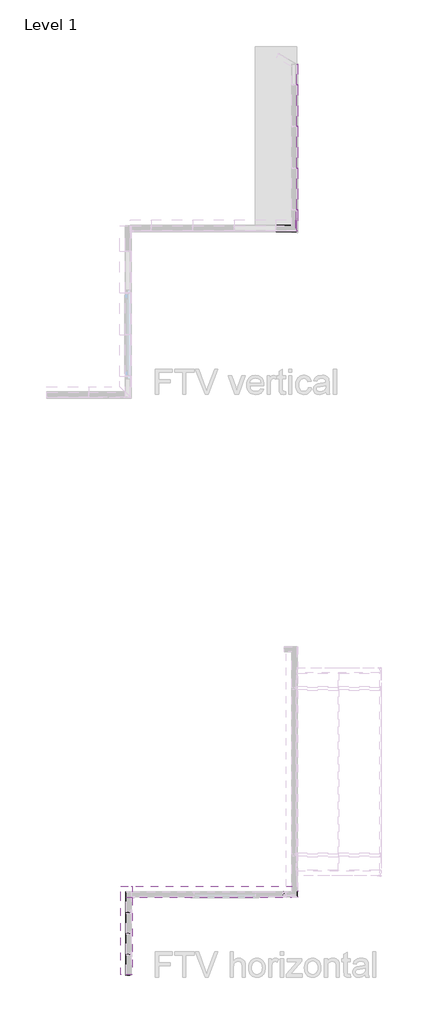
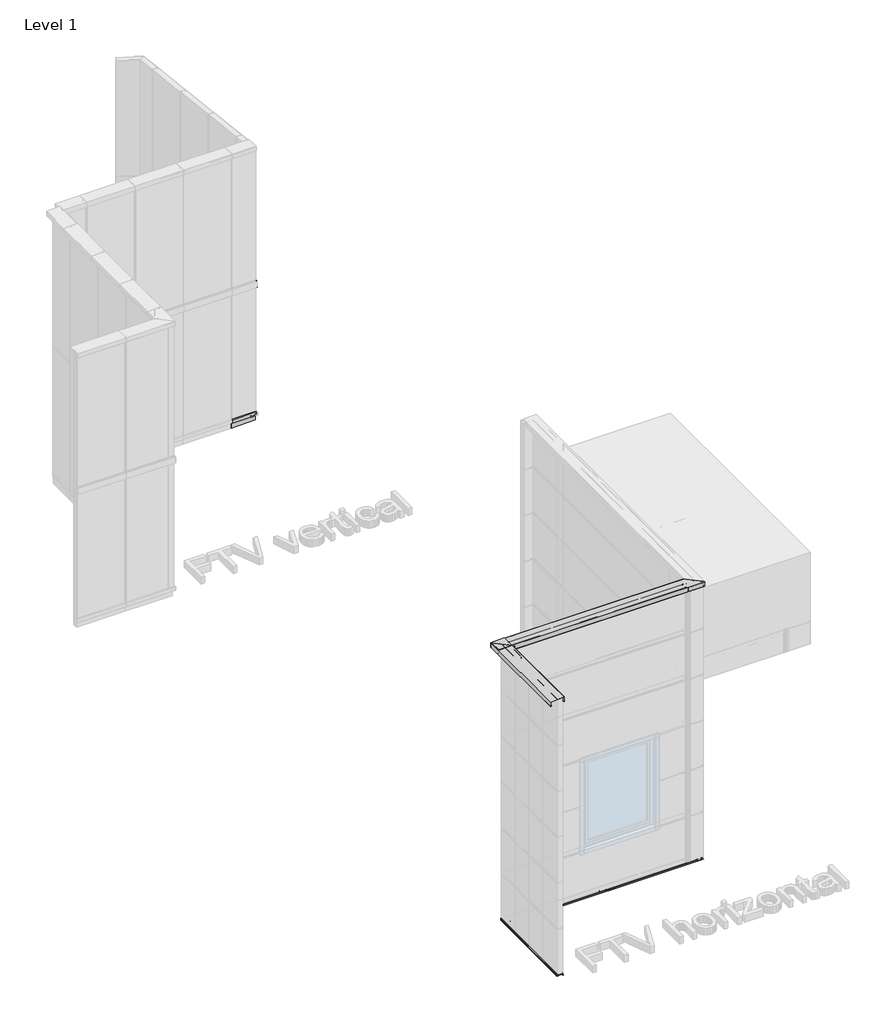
# One storey, part 14 of 16: 6 members, 4 beams, 2 plates.
"""IFC4 building model written with IfcOpenShell, lengths in millimetres."""

from ifc_helpers import new_model, si_unit, point, frame, frame_2d, origin, place, context, project, spatial, polyline, circle_curve, ellipse_curve, trimmed, segment, composite_curve, outline, extrude, faceted_brep, transform, mapped, element, save
from ifc_brep_helpers import plane_surface, cylinder_surface, revolved_surface, advanced_brep
from components import base_detail_1a4634c7, rectangular_mullion_43938598, rectangular_mullion_33361686, rectangular_mullion_88eb2caa, rectangular_mullion_4b7977a3, tr_empty_empty_82193d3f, tr_empty_empty_37449267

model = new_model("IFC4")

# Units and contexts
model_context = context("Model", 3, world=origin())
ifc_project = project(units=[si_unit("LENGTHUNIT", "METRE", prefix="MILLI")], contexts=[model_context])

# Site, building, storey
site = spatial("IfcSite", under=ifc_project)
building = spatial("IfcBuilding", under=site)
storey = spatial("IfcBuildingStorey", under=building, Name="Level 1", Elevation=0.0)

# Beams
placement = place(None, origin())
element("IfcBeam", 1, ObjectType="TE-H-02_01_Base detail i_BEAM : Base detail", at=placement, inside=storey, context=model_context, shape_type="SolidModel", body=[
    faceted_brep([(-3969.1251246, -12018.1930879, 176.1857205), (-3969.1251246, -12018.1930879, 161.1857205), (-3969.1251246, -12018.9930879, 161.1857205), (-3969.1251246, -12018.9930879, 175.3857205), (-3969.1251246, -12022.3930879, 175.3857205), (-3969.1251246, -12022.3930879, 150.7238403), (-3969.1251246, -12035.3834689, 143.2238403), (-3969.1251246, -12035.3834689, 120.6170914), (-3969.1251246, -12026.1425526, 129.8580077), (-3969.1251246, -12025.5768672, 129.2923222), (-3969.1251246, -12036.1834689, 118.6857205), (-3969.1251246, -12036.1834689, 143.6857205), (-3969.1251246, -12023.1930879, 151.1857205), (-3969.1251246, -12023.1930879, 176.1857205), (11.6748754, -12018.1930879, 176.1857205), (11.6748754, -12023.1930879, 176.1857205), (11.6748754, -12023.1930879, 151.1857205), (11.6748754, -12036.1834689, 143.6857205), (11.6748754, -12036.1834689, 118.6857205), (11.6748754, -12025.5768672, 129.2923222), (11.6748754, -12026.1425526, 129.8580077), (11.6748754, -12035.3834689, 120.6170914), (11.6748754, -12035.3834689, 143.2238403), (11.6748754, -12022.3930879, 150.7238403), (11.6748754, -12022.3930879, 175.3857205), (11.6748754, -12018.9930879, 175.3857205), (11.6748754, -12018.9930879, 161.1857205), (11.6748754, -12018.1930879, 161.1857205)], [[[0, 1, 2, 3, 4, 5, 6, 7, 8, 9, 10, 11, 12, 13]], [[14, 15, 16, 17, 18, 19, 20, 21, 22, 23, 24, 25, 26, 27]], [[1, 0, 14, 27]], [[2, 1, 27, 26]], [[3, 2, 26, 25]], [[4, 3, 25, 24]], [[5, 4, 24, 23]], [[6, 5, 23, 22]], [[7, 6, 22, 21]], [[8, 7, 21, 20]], [[9, 8, 20, 19]], [[10, 9, 19, 18]], [[11, 10, 18, 17]], [[12, 11, 17, 16]], [[13, 12, 16, 15]], [[0, 13, 15, 14]]]),
    faceted_brep([(-3969.1251246, -12018.1930879, 176.1857205), (-3969.1251246, -12018.1930879, 161.1857205), (-3969.1251246, -12018.9930879, 161.1857205), (-3969.1251246, -12018.9930879, 175.3857205), (-3969.1251246, -12022.3930879, 175.3857205), (-3969.1251246, -12022.3930879, 150.7238403), (-3969.1251246, -12035.3834689, 143.2238403), (-3969.1251246, -12035.3834689, 120.6170914), (-3969.1251246, -12026.1425526, 129.8580077), (-3969.1251246, -12025.5768672, 129.2923222), (-3969.1251246, -12036.1834689, 118.6857205), (-3969.1251246, -12036.1834689, 143.6857205), (-3969.1251246, -12023.1930879, 151.1857205), (-3969.1251246, -12023.1930879, 176.1857205), (-6.3155057, -12018.1930879, 176.1857205), (-6.3155057, -12018.1930879, 161.1857205), (-5.5155057, -12018.9930879, 161.1857205), (-5.5155057, -12018.9930879, 175.3857205), (-2.1155057, -12022.3930879, 175.3857205), (-2.1155057, -12022.3930879, 150.7238403), (10.8748754, -12035.3834689, 143.2238403), (10.8748754, -12035.3834689, 120.6170914), (1.6339591, -12026.1425526, 129.8580077), (1.0682737, -12025.5768672, 129.2923222), (11.6748754, -12036.1834689, 118.6857205), (11.6748754, -12036.1834689, 143.6857205), (-1.3155057, -12023.1930879, 151.1857205), (-1.3155057, -12023.1930879, 176.1857205)], [[[0, 1, 2, 3, 4, 5, 6, 7, 8, 9, 10, 11, 12, 13]], [[1, 0, 14, 15]], [[2, 1, 15, 16]], [[3, 2, 16, 17]], [[4, 3, 17, 18]], [[5, 4, 18, 19]], [[6, 5, 19, 20]], [[7, 6, 20, 21]], [[8, 7, 21, 22]], [[9, 8, 22, 23]], [[10, 9, 23, 24]], [[11, 10, 24, 25]], [[12, 11, 25, 26]], [[13, 12, 26, 27]], [[0, 13, 27, 14]], [[15, 14, 27, 26, 25, 24, 23, 22, 21, 20, 19, 18, 17, 16]]]),
    advanced_brep(
    [(11.6748754, -11908.8930879, 148.5), (11.6748754, -11905.8930879, 151.5), (11.6748754, -11905.8930879, 198.5), (11.6748754, -11907.3930879, 198.5), (11.6748754, -11907.3930879, 151.5), (11.6748754, -11908.8930879, 150.0), (11.6748754, -12005.8930879, 150.0), (11.6748754, -12005.8930879, 148.5), (-3969.1251246, -11908.8930879, 148.5), (-3969.1251246, -12005.8930879, 148.5), (-3969.1251246, -12005.8930879, 150.0), (-3969.1251246, -11908.8930879, 150.0), (-3969.1251246, -11907.3930879, 151.5), (-3969.1251246, -11907.3930879, 198.5), (-3969.1251246, -11905.8930879, 198.5), (-3969.1251246, -11905.8930879, 151.5)],
    [
        (0, 1, circle_curve(frame((11.6748754, -11908.8930879, 151.5), z_axis=(1.0, 0.0, 0.0), x_axis=(0.0, 1.0, 0.0)), 3.0)),
        (1, 2),
        (2, 3),
        (3, 4),
        (4, 5, circle_curve(frame((11.6748754, -11908.8930879, 151.5), z_axis=(-1.0, 0.0, 0.0), x_axis=(0.0, 1.0, 0.0)), 1.5)),
        (5, 6),
        (6, 7),
        (7, 0),
        (8, 9),
        (9, 10),
        (10, 11),
        (11, 12, circle_curve(frame((-3969.1251246, -11908.8930879, 151.5), z_axis=(1.0, 0.0, 0.0), x_axis=(0.0, 1.0, 0.0)), 1.5)),
        (12, 13),
        (13, 14),
        (14, 15),
        (15, 8, circle_curve(frame((-3969.1251246, -11908.8930879, 151.5), z_axis=(-1.0, 0.0, 0.0), x_axis=(0.0, 1.0, 0.0)), 3.0)),
        (0, 8),
        (15, 1),
        (14, 2),
        (13, 3),
        (12, 4),
        (11, 5),
        (10, 6),
        (9, 7),
    ],
    [
        plane_surface(frame((11.6748754, -11905.8930879, 151.5), z_axis=(1.0, 0.0, 0.0), x_axis=(0.0, 0.0, 1.0))),
        plane_surface(frame((-3969.1251246, -11905.8930879, 151.5), z_axis=(-1.0, 0.0, 0.0), x_axis=(0.0, 0.0, -1.0))),
        cylinder_surface(frame((-3969.1251246, -11908.8930879, 151.5), z_axis=(1.0, 0.0, 0.0), x_axis=(0.0, 1.0, 0.0)), 3.0),
        plane_surface(frame((11.6748754, -11905.8930879, 151.5), z_axis=(0.0, 1.0, 0.0), x_axis=(-1.0, 0.0, 0.0))),
        plane_surface(frame((11.6748754, -11905.8930879, 198.5), z_axis=(0.0, 0.0, 1.0), x_axis=(-1.0, 0.0, 0.0))),
        plane_surface(frame((11.6748754, -11907.3930879, 198.5), z_axis=(0.0, -1.0, 0.0), x_axis=(-1.0, 0.0, 0.0))),
        revolved_surface(polyline([(-3969.1251246, -11907.3930879, 151.5), (11.674875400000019, -11907.3930879, 151.5)]), (-3969.1251246, -11908.8930879, 151.5), (-1.0, 0.0, 0.0)),
        plane_surface(frame((11.6748754, -11908.8930879, 150.0), z_axis=(0.0, 0.0, 1.0), x_axis=(-1.0, 0.0, 0.0))),
        plane_surface(frame((11.6748754, -12005.8930879, 150.0), z_axis=(0.0, -1.0, 0.0), x_axis=(-1.0, 0.0, 0.0))),
        plane_surface(frame((11.6748754, -12005.8930879, 148.5), z_axis=(0.0, 0.0, -1.0), x_axis=(-1.0, 0.0, 0.0))),
    ],
    [
        (0, [[1, 2, 3, 4, 5, 6, 7, 8]]),
        (1, [[9, 10, 11, 12, 13, 14, 15, 16]]),
        (2, [[-1, 17, -16, 18]]),
        (3, [[-2, -18, -15, 19]]),
        (4, [[-3, -19, -14, 20]]),
        (5, [[-4, -20, -13, 21]]),
        (6, [[-5, -21, -12, 22]]),
        (7, [[-6, -22, -11, 23]]),
        (8, [[-7, -23, -10, 24]]),
        (9, [[-8, -24, -9, -17]]),
    ],
),
    advanced_brep(
    [(-3969.1251246, -11908.8930879, 148.5), (-3969.1251246, -12005.8930879, 148.5), (-3969.1251246, -12005.8930879, 150.0), (-3969.1251246, -11908.8930879, 150.0), (-3969.1251246, -11907.3930879, 151.5), (-3969.1251246, -11907.3930879, 198.5), (-3969.1251246, -11905.8930879, 198.5), (-3969.1251246, -11905.8930879, 151.5), (-18.6155057, -12005.8930879, 148.5), (-115.6155057, -11908.8930879, 148.5), (-18.6155057, -12005.8930879, 150.0), (-115.6155057, -11908.8930879, 150.0), (-117.1155057, -11907.3930879, 151.5), (-117.1155057, -11907.3930879, 198.5), (-118.6155057, -11905.8930879, 198.5), (-118.6155057, -11905.8930879, 151.5)],
    [
        (0, 1),
        (1, 2),
        (2, 3),
        (3, 4, circle_curve(frame((-3969.1251246, -11908.8930879, 151.5), z_axis=(1.0, 0.0, 0.0), x_axis=(0.0, 1.0, 0.0)), 1.5)),
        (4, 5),
        (5, 6),
        (6, 7),
        (7, 0, circle_curve(frame((-3969.1251246, -11908.8930879, 151.5), z_axis=(-1.0, 0.0, 0.0), x_axis=(0.0, 1.0, 0.0)), 3.0)),
        (8, 1),
        (0, 9),
        (9, 8),
        (10, 2),
        (8, 10),
        (11, 3),
        (10, 11),
        (12, 4),
        (11, 12, ellipse_curve(frame((-115.6155057, -11908.8930879, 151.5), z_axis=(0.7071067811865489, 0.7071067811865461, 0.0), x_axis=(-0.7071067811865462, 0.7071067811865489, 0.0)), 2.1213203, 1.5)),
        (13, 5),
        (12, 13),
        (14, 6),
        (13, 14),
        (15, 7),
        (14, 15),
        (15, 9, ellipse_curve(frame((-115.6155057, -11908.8930879, 151.5), z_axis=(-0.7071067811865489, -0.7071067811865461, 0.0), x_axis=(0.7071067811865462, -0.7071067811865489, 0.0)), 4.2426407, 3.0)),
    ],
    [
        plane_surface(frame((-3969.1251246, -11905.8930879, 151.5), z_axis=(-1.0, 0.0, 0.0), x_axis=(0.0, 0.0, -1.0))),
        plane_surface(frame((11.6748754, -12005.8930879, 148.5), z_axis=(0.0, 0.0, -1.0), x_axis=(-1.0, 0.0, 0.0))),
        plane_surface(frame((11.6748754, -12005.8930879, 150.0), z_axis=(0.0, -1.0, 0.0), x_axis=(-1.0, 0.0, 0.0))),
        plane_surface(frame((11.6748754, -11908.8930879, 150.0), z_axis=(0.0, 0.0, 1.0), x_axis=(-1.0, 0.0, 0.0))),
        revolved_surface(polyline([(-3969.1251246, -11907.3930879, 151.5), (-114.11550573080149, -11907.3930879, 151.5)]), (-3969.1251246, -11908.8930879, 151.5), (-1.0, 0.0, 0.0)),
        plane_surface(frame((11.6748754, -11907.3930879, 198.5), z_axis=(0.0, -1.0, 0.0), x_axis=(-1.0, 0.0, 0.0))),
        plane_surface(frame((11.6748754, -11905.8930879, 198.5), z_axis=(0.0, 0.0, 1.0), x_axis=(-1.0, 0.0, 0.0))),
        plane_surface(frame((11.6748754, -11905.8930879, 151.5), z_axis=(0.0, 1.0, 0.0), x_axis=(-1.0, 0.0, 0.0))),
        cylinder_surface(frame((-3969.1251246, -11908.8930879, 151.5), z_axis=(1.0, 0.0, 0.0), x_axis=(0.0, 1.0, 0.0)), 3.0),
        plane_surface(frame((-247.5155057, -11776.9930879, 100000.0), z_axis=(0.7071067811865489, 0.7071067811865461, 0.0), x_axis=(-0.7071067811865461, 0.7071067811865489, 0.0))),
    ],
    [
        (0, [[1, 2, 3, 4, 5, 6, 7, 8]]),
        (1, [[9, -1, 10, 11]]),
        (2, [[12, -2, -9, 13]]),
        (3, [[14, -3, -12, 15]]),
        (4, [[16, -4, -14, 17]]),
        (5, [[18, -5, -16, 19]]),
        (6, [[20, -6, -18, 21]]),
        (7, [[22, -7, -20, 23]]),
        (8, [[-10, -8, -22, 24]]),
        (9, [[-24, -23, -21, -19, -17, -15, -13, -11]]),
    ],
),
    advanced_brep(
    [(-138.3251246, -12022.3930879, 175.0), (-138.3251246, -12020.3930879, 175.0), (-138.3251246, -12020.3930879, 154.0), (-138.3251246, -12018.3930879, 152.0), (-138.3251246, -11922.3930879, 152.0), (-138.3251246, -11920.3930879, 154.0), (-138.3251246, -11920.3930879, 175.0), (-138.3251246, -11918.3930879, 175.0), (-138.3251246, -11918.3930879, 154.0), (-138.3251246, -11922.3930879, 150.0), (-138.3251246, -12018.3930879, 150.0), (-138.3251246, -12022.3930879, 154.0), (11.6748754, -12022.3930879, 175.0), (11.6748754, -12022.3930879, 154.0), (11.6748754, -12018.3930879, 150.0), (11.6748754, -11922.3930879, 150.0), (11.6748754, -11918.3930879, 154.0), (11.6748754, -11918.3930879, 175.0), (11.6748754, -11920.3930879, 175.0), (11.6748754, -11920.3930879, 154.0), (11.6748754, -11922.3930879, 152.0), (11.6748754, -12018.3930879, 152.0), (11.6748754, -12020.3930879, 154.0), (11.6748754, -12020.3930879, 175.0)],
    [
        (0, 1),
        (1, 2),
        (2, 3, circle_curve(frame((-138.3251246, -12018.3930879, 154.0), z_axis=(1.0, 0.0, 0.0), x_axis=(0.0, -1.0, 0.0)), 2.0)),
        (3, 4),
        (4, 5, circle_curve(frame((-138.3251246, -11922.3930879, 154.0), z_axis=(1.0, 0.0, 0.0), x_axis=(0.0, -1.0, 0.0)), 2.0)),
        (5, 6),
        (6, 7),
        (7, 8),
        (8, 9, circle_curve(frame((-138.3251246, -11922.3930879, 154.0), z_axis=(-1.0, 0.0, 0.0), x_axis=(0.0, -1.0, 0.0)), 4.0)),
        (9, 10),
        (10, 11, circle_curve(frame((-138.3251246, -12018.3930879, 154.0), z_axis=(-1.0, 0.0, 0.0), x_axis=(0.0, -1.0, 0.0)), 4.0)),
        (11, 0),
        (12, 13),
        (13, 14, circle_curve(frame((11.6748754, -12018.3930879, 154.0), z_axis=(1.0, 0.0, 0.0), x_axis=(0.0, -1.0, 0.0)), 4.0)),
        (14, 15),
        (15, 16, circle_curve(frame((11.6748754, -11922.3930879, 154.0), z_axis=(1.0, 0.0, 0.0), x_axis=(0.0, -1.0, 0.0)), 4.0)),
        (16, 17),
        (17, 18),
        (18, 19),
        (19, 20, circle_curve(frame((11.6748754, -11922.3930879, 154.0), z_axis=(-1.0, 0.0, 0.0), x_axis=(0.0, -1.0, 0.0)), 2.0)),
        (20, 21),
        (21, 22, circle_curve(frame((11.6748754, -12018.3930879, 154.0), z_axis=(-1.0, 0.0, 0.0), x_axis=(0.0, -1.0, 0.0)), 2.0)),
        (22, 23),
        (23, 12),
        (0, 12),
        (23, 1),
        (22, 2),
        (21, 3),
        (20, 4),
        (19, 5),
        (18, 6),
        (17, 7),
        (16, 8),
        (15, 9),
        (14, 10),
        (13, 11),
    ],
    [
        plane_surface(frame((-138.3251246, -12022.3930879, 175.0), z_axis=(-1.0, 0.0, 0.0), x_axis=(0.0, 1.0, 0.0))),
        plane_surface(frame((11.6748754, -12022.3930879, 175.0), z_axis=(1.0, 0.0, 0.0), x_axis=(0.0, -1.0, 0.0))),
        plane_surface(frame((-138.3251246, -12022.3930879, 175.0), z_axis=(0.0, 0.0, 1.0), x_axis=(1.0, 0.0, 0.0))),
        plane_surface(frame((-138.3251246, -12020.3930879, 175.0), z_axis=(0.0, 1.0, 0.0), x_axis=(1.0, 0.0, 0.0))),
        revolved_surface(polyline([(11.6748754, -12020.3930879, 154.0), (-138.3251246, -12020.3930879, 154.0)]), (11.6748754, -12018.3930879, 154.0), (1.0, 0.0, 0.0)),
        plane_surface(frame((-138.3251246, -12018.3930879, 152.0), z_axis=(0.0, 0.0, 1.0), x_axis=(1.0, 0.0, 0.0))),
        revolved_surface(polyline([(11.6748754, -11924.3930879, 154.0), (-138.3251246, -11924.3930879, 154.0)]), (11.6748754, -11922.3930879, 154.0), (1.0, 0.0, 0.0)),
        plane_surface(frame((-138.3251246, -11920.3930879, 154.0), z_axis=(0.0, -1.0, 0.0), x_axis=(1.0, 0.0, 0.0))),
        plane_surface(frame((-138.3251246, -11920.3930879, 175.0), z_axis=(0.0, 0.0, 1.0), x_axis=(1.0, 0.0, 0.0))),
        plane_surface(frame((-138.3251246, -11918.3930879, 175.0), z_axis=(0.0, 1.0, 0.0), x_axis=(1.0, 0.0, 0.0))),
        cylinder_surface(frame((11.6748754, -11922.3930879, 154.0), z_axis=(-1.0, 0.0, 0.0), x_axis=(0.0, -1.0, 0.0)), 4.0),
        plane_surface(frame((-138.3251246, -11922.3930879, 150.0), z_axis=(0.0, 0.0, -1.0), x_axis=(1.0, 0.0, 0.0))),
        cylinder_surface(frame((11.6748754, -12018.3930879, 154.0), z_axis=(-1.0, 0.0, 0.0), x_axis=(0.0, -1.0, 0.0)), 4.0),
        plane_surface(frame((-138.3251246, -12022.3930879, 154.0), z_axis=(0.0, -1.0, 0.0), x_axis=(1.0, 0.0, 0.0))),
    ],
    [
        (0, [[1, 2, 3, 4, 5, 6, 7, 8, 9, 10, 11, 12]]),
        (1, [[13, 14, 15, 16, 17, 18, 19, 20, 21, 22, 23, 24]]),
        (2, [[-1, 25, -24, 26]]),
        (3, [[-2, -26, -23, 27]]),
        (4, [[-3, -27, -22, 28]]),
        (5, [[-4, -28, -21, 29]]),
        (6, [[-5, -29, -20, 30]]),
        (7, [[-6, -30, -19, 31]]),
        (8, [[-7, -31, -18, 32]]),
        (9, [[-8, -32, -17, 33]]),
        (10, [[-9, -33, -16, 34]]),
        (11, [[-10, -34, -15, 35]]),
        (12, [[-11, -35, -14, 36]]),
        (13, [[-12, -36, -13, -25]]),
    ],
),
    advanced_brep(
    [(-138.3251246, -12022.3930879, 175.0), (-138.3251246, -12020.3930879, 175.0), (-138.3251246, -12020.3930879, 154.0), (-138.3251246, -12018.3930879, 152.0), (-138.3251246, -11922.3930879, 152.0), (-138.3251246, -11920.3930879, 154.0), (-138.3251246, -11920.3930879, 175.0), (-138.3251246, -11918.3930879, 175.0), (-138.3251246, -11918.3930879, 154.0), (-138.3251246, -11922.3930879, 150.0), (-138.3251246, -12018.3930879, 150.0), (-138.3251246, -12022.3930879, 154.0), (-2.1155057, -12022.3930879, 175.0), (-4.1155057, -12020.3930879, 175.0), (-4.1155057, -12020.3930879, 154.0), (-6.1155057, -12018.3930879, 152.0), (-102.1155057, -11922.3930879, 152.0), (-104.1155057, -11920.3930879, 154.0), (-104.1155057, -11920.3930879, 175.0), (-106.1155057, -11918.3930879, 175.0), (-106.1155057, -11918.3930879, 154.0), (-102.1155057, -11922.3930879, 150.0), (-6.1155057, -12018.3930879, 150.0), (-2.1155057, -12022.3930879, 154.0)],
    [
        (0, 1),
        (1, 2),
        (2, 3, circle_curve(frame((-138.3251246, -12018.3930879, 154.0), z_axis=(1.0, 0.0, 0.0), x_axis=(0.0, -1.0, 0.0)), 2.0)),
        (3, 4),
        (4, 5, circle_curve(frame((-138.3251246, -11922.3930879, 154.0), z_axis=(1.0, 0.0, 0.0), x_axis=(0.0, -1.0, 0.0)), 2.0)),
        (5, 6),
        (6, 7),
        (7, 8),
        (8, 9, circle_curve(frame((-138.3251246, -11922.3930879, 154.0), z_axis=(-1.0, 0.0, 0.0), x_axis=(0.0, -1.0, 0.0)), 4.0)),
        (9, 10),
        (10, 11, circle_curve(frame((-138.3251246, -12018.3930879, 154.0), z_axis=(-1.0, 0.0, 0.0), x_axis=(0.0, -1.0, 0.0)), 4.0)),
        (11, 0),
        (0, 12),
        (12, 13),
        (13, 1),
        (13, 14),
        (14, 2),
        (14, 15, ellipse_curve(frame((-6.1155057, -12018.3930879, 154.0), z_axis=(0.7071067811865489, 0.7071067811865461, 0.0), x_axis=(0.7071067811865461, -0.7071067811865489, 0.0)), 2.8284271, 2.0)),
        (15, 3),
        (15, 16),
        (16, 4),
        (16, 17, ellipse_curve(frame((-102.1155057, -11922.3930879, 154.0), z_axis=(0.7071067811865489, 0.7071067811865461, 0.0), x_axis=(0.7071067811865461, -0.7071067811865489, 0.0)), 2.8284271, 2.0)),
        (17, 5),
        (17, 18),
        (18, 6),
        (18, 19),
        (19, 7),
        (19, 20),
        (20, 8),
        (20, 21, ellipse_curve(frame((-102.1155057, -11922.3930879, 154.0), z_axis=(-0.7071067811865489, -0.7071067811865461, 0.0), x_axis=(-0.7071067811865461, 0.7071067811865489, 0.0)), 5.6568542, 4.0)),
        (21, 9),
        (21, 22),
        (22, 10),
        (22, 23, ellipse_curve(frame((-6.1155057, -12018.3930879, 154.0), z_axis=(-0.7071067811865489, -0.7071067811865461, 0.0), x_axis=(-0.7071067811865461, 0.7071067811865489, 0.0)), 5.6568542, 4.0)),
        (23, 11),
        (23, 12),
    ],
    [
        plane_surface(frame((-138.3251246, -12022.3930879, 175.0), z_axis=(-1.0, 0.0, 0.0), x_axis=(0.0, 1.0, 0.0))),
        plane_surface(frame((-138.3251246, -12022.3930879, 175.0), z_axis=(0.0, 0.0, 1.0), x_axis=(1.0, 0.0, 0.0))),
        plane_surface(frame((-138.3251246, -12020.3930879, 175.0), z_axis=(0.0, 1.0, 0.0), x_axis=(1.0, 0.0, 0.0))),
        revolved_surface(polyline([(-4.1155057, -12020.3930879, 154.0), (-138.3251246, -12020.3930879, 154.0)]), (11.6748754, -12018.3930879, 154.0), (1.0, 0.0, 0.0)),
        plane_surface(frame((-138.3251246, -12018.3930879, 152.0), z_axis=(0.0, 0.0, 1.0), x_axis=(1.0, 0.0, 0.0))),
        revolved_surface(polyline([(-100.11550571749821, -11924.3930879, 154.0), (-138.3251246, -11924.3930879, 154.0)]), (11.6748754, -11922.3930879, 154.0), (1.0, 0.0, 0.0)),
        plane_surface(frame((-138.3251246, -11920.3930879, 154.0), z_axis=(0.0, -1.0, 0.0), x_axis=(1.0, 0.0, 0.0))),
        plane_surface(frame((-138.3251246, -11920.3930879, 175.0), z_axis=(0.0, 0.0, 1.0), x_axis=(1.0, 0.0, 0.0))),
        plane_surface(frame((-138.3251246, -11918.3930879, 175.0), z_axis=(0.0, 1.0, 0.0), x_axis=(1.0, 0.0, 0.0))),
        cylinder_surface(frame((11.6748754, -11922.3930879, 154.0), z_axis=(-1.0, 0.0, 0.0), x_axis=(0.0, -1.0, 0.0)), 4.0),
        plane_surface(frame((-138.3251246, -11922.3930879, 150.0), z_axis=(0.0, 0.0, -1.0), x_axis=(1.0, 0.0, 0.0))),
        cylinder_surface(frame((11.6748754, -12018.3930879, 154.0), z_axis=(-1.0, 0.0, 0.0), x_axis=(0.0, -1.0, 0.0)), 4.0),
        plane_surface(frame((-138.3251246, -12022.3930879, 154.0), z_axis=(0.0, -1.0, 0.0), x_axis=(1.0, 0.0, 0.0))),
        plane_surface(frame((-247.5155057, -11776.9930879, 100000.0), z_axis=(0.7071067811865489, 0.7071067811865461, 0.0), x_axis=(-0.7071067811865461, 0.7071067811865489, 0.0))),
    ],
    [
        (0, [[1, 2, 3, 4, 5, 6, 7, 8, 9, 10, 11, 12]]),
        (1, [[-1, 13, 14, 15]]),
        (2, [[-2, -15, 16, 17]]),
        (3, [[-3, -17, 18, 19]]),
        (4, [[-4, -19, 20, 21]]),
        (5, [[-5, -21, 22, 23]]),
        (6, [[-6, -23, 24, 25]]),
        (7, [[-7, -25, 26, 27]]),
        (8, [[-8, -27, 28, 29]]),
        (9, [[-9, -29, 30, 31]]),
        (10, [[-10, -31, 32, 33]]),
        (11, [[-11, -33, 34, 35]]),
        (12, [[-12, -35, 36, -13]]),
        (13, [[-14, -36, -34, -32, -30, -28, -26, -24, -22, -20, -18, -16]]),
    ],
),
    extrude(outline(composite_curve([segment(polyline([(-12022.3930879, 175.0), (-12020.3930879, 175.0), (-12020.3930879, 154.0)]), True, "CONTINUOUS"), segment(trimmed(circle_curve(frame_2d((-12018.3930879, 154.0)), 2.0), [point((-12020.3930879, 154.0))], [point((-12018.3930879, 152.0))], True, "CARTESIAN"), True, "CONTINUOUS"), segment(polyline([(-12018.3930879, 152.0), (-11922.3930879, 152.0)]), True, "CONTINUOUS"), segment(trimmed(circle_curve(frame_2d((-11922.3930879, 154.0)), 2.0), [point((-11922.3930879, 152.0))], [point((-11920.3930879, 154.0))], True, "CARTESIAN"), True, "CONTINUOUS"), segment(polyline([(-11920.3930879, 154.0), (-11920.3930879, 175.0), (-11918.3930879, 175.0), (-11918.3930879, 154.0)]), True, "CONTINUOUS"), segment(trimmed(circle_curve(frame_2d((-11922.3930879, 154.0)), 4.0), [point((-11918.3930879, 154.0))], [point((-11922.3930879, 150.0))], False, "CARTESIAN"), True, "CONTINUOUS"), segment(polyline([(-11922.3930879, 150.0), (-12018.3930879, 150.0)]), True, "CONTINUOUS"), segment(trimmed(circle_curve(frame_2d((-12018.3930879, 154.0)), 4.0), [point((-12018.3930879, 150.0))], [point((-12022.3930879, 154.0))], False, "CARTESIAN"), True, "CONTINUOUS"), segment(polyline([(-12022.3930879, 154.0), (-12022.3930879, 175.0)]), True, "CONTINUOUS")], self_intersect=False)), frame((-1138.3251246, 0.0, 0.0), z_axis=(1.0, 0.0, 0.0), x_axis=(0.0, 1.0, 0.0)), (0.0, 0.0, 1.0), 150.0),
    extrude(outline(composite_curve([segment(polyline([(-12022.3930879, 175.0), (-12020.3930879, 175.0), (-12020.3930879, 154.0)]), True, "CONTINUOUS"), segment(trimmed(circle_curve(frame_2d((-12018.3930879, 154.0)), 2.0), [point((-12020.3930879, 154.0))], [point((-12018.3930879, 152.0))], True, "CARTESIAN"), True, "CONTINUOUS"), segment(polyline([(-12018.3930879, 152.0), (-11922.3930879, 152.0)]), True, "CONTINUOUS"), segment(trimmed(circle_curve(frame_2d((-11922.3930879, 154.0)), 2.0), [point((-11922.3930879, 152.0))], [point((-11920.3930879, 154.0))], True, "CARTESIAN"), True, "CONTINUOUS"), segment(polyline([(-11920.3930879, 154.0), (-11920.3930879, 175.0), (-11918.3930879, 175.0), (-11918.3930879, 154.0)]), True, "CONTINUOUS"), segment(trimmed(circle_curve(frame_2d((-11922.3930879, 154.0)), 4.0), [point((-11918.3930879, 154.0))], [point((-11922.3930879, 150.0))], False, "CARTESIAN"), True, "CONTINUOUS"), segment(polyline([(-11922.3930879, 150.0), (-12018.3930879, 150.0)]), True, "CONTINUOUS"), segment(trimmed(circle_curve(frame_2d((-12018.3930879, 154.0)), 4.0), [point((-12018.3930879, 150.0))], [point((-12022.3930879, 154.0))], False, "CARTESIAN"), True, "CONTINUOUS"), segment(polyline([(-12022.3930879, 154.0), (-12022.3930879, 175.0)]), True, "CONTINUOUS")], self_intersect=False)), frame((-3969.1251246, 0.0, 0.0), z_axis=(1.0, 0.0, 0.0), x_axis=(0.0, 1.0, 0.0)), (0.0, 0.0, 1.0), 150.0),
    extrude(outline(composite_curve([segment(polyline([(-12022.3930879, 175.0), (-12020.3930879, 175.0), (-12020.3930879, 154.0)]), True, "CONTINUOUS"), segment(trimmed(circle_curve(frame_2d((-12018.3930879, 154.0)), 2.0), [point((-12020.3930879, 154.0))], [point((-12018.3930879, 152.0))], True, "CARTESIAN"), True, "CONTINUOUS"), segment(polyline([(-12018.3930879, 152.0), (-11922.3930879, 152.0)]), True, "CONTINUOUS"), segment(trimmed(circle_curve(frame_2d((-11922.3930879, 154.0)), 2.0), [point((-11922.3930879, 152.0))], [point((-11920.3930879, 154.0))], True, "CARTESIAN"), True, "CONTINUOUS"), segment(polyline([(-11920.3930879, 154.0), (-11920.3930879, 175.0), (-11918.3930879, 175.0), (-11918.3930879, 154.0)]), True, "CONTINUOUS"), segment(trimmed(circle_curve(frame_2d((-11922.3930879, 154.0)), 4.0), [point((-11918.3930879, 154.0))], [point((-11922.3930879, 150.0))], False, "CARTESIAN"), True, "CONTINUOUS"), segment(polyline([(-11922.3930879, 150.0), (-12018.3930879, 150.0)]), True, "CONTINUOUS"), segment(trimmed(circle_curve(frame_2d((-12018.3930879, 154.0)), 4.0), [point((-12018.3930879, 150.0))], [point((-12022.3930879, 154.0))], False, "CARTESIAN"), True, "CONTINUOUS"), segment(polyline([(-12022.3930879, 154.0), (-12022.3930879, 175.0)]), True, "CONTINUOUS")], self_intersect=False)), frame((-2138.3251246, 0.0, 0.0), z_axis=(1.0, 0.0, 0.0), x_axis=(0.0, 1.0, 0.0)), (0.0, 0.0, 1.0), 150.0),
])
base_detail_shape = base_detail_1a4634c7(model_context)
element("IfcBeam", 2, ObjectType="TE-H-02_01_Base detail i_BEAM : Base detail", at=placement, inside=storey, context=model_context, shape_type="MappedRepresentation", body=[
    mapped(base_detail_shape, transform((-3974.1155057, -12910.3930879, 150.0), x_axis=(0.0, -1.0, 0.0), y_axis=(1.0, 0.0, 0.0), z_axis=(0.0, 0.0, 1.0))),
])
element("IfcBeam", 3, ObjectType="TI-V-03_01_Top parapet_BEAM : Top parapet", at=placement, inside=storey, context=model_context, shape_type="Brep", body=[
    faceted_brep([(-3968.5103325, -11776.9930879, 6109.9605122), (-3951.5155057, -11776.9930879, 6092.9656854), (-3951.5155057, -11776.9930879, 6191.5784879), (-4226.7155057, -11776.9930879, 6177.1558671), (-4226.7155057, -11776.9930879, 6078.5011383), (-4209.7206788, -11776.9930879, 6095.4959652), (-4209.1549934, -11776.9930879, 6094.9302797), (-4227.5155057, -11776.9930879, 6076.5697675), (-4227.5155057, -11776.9930879, 6177.9150387), (-3950.7155057, -11776.9930879, 6192.4215121), (-3950.7155057, -11776.9930879, 6091.0343146), (-3969.0760179, -11776.9930879, 6109.3948268), (-3968.5103325, -13911.1930879, 6109.9605122), (-3969.0760179, -13911.1930879, 6109.3948268), (-3950.7155057, -13911.1930879, 6091.0343146), (-3950.7155057, -13911.1930879, 6192.4215121), (-4227.5155057, -13911.1930879, 6177.9150387), (-4227.5155057, -13911.1930879, 6076.5697675), (-4209.1549934, -13911.1930879, 6094.9302797), (-4209.7206788, -13911.1930879, 6095.4959652), (-4226.7155057, -13911.1930879, 6078.5011383), (-4226.7155057, -13911.1930879, 6177.1558671), (-3951.5155057, -13911.1930879, 6191.5784879), (-3951.5155057, -13911.1930879, 6092.9656854)], [[[0, 1, 2, 3, 4, 5, 6, 7, 8, 9, 10, 11]], [[12, 13, 14, 15, 16, 17, 18, 19, 20, 21, 22, 23]], [[1, 0, 12, 23]], [[2, 1, 23, 22]], [[3, 2, 22, 21]], [[4, 3, 21, 20]], [[5, 4, 20, 19]], [[6, 5, 19, 18]], [[7, 6, 18, 17]], [[8, 7, 17, 16]], [[9, 8, 16, 15]], [[10, 9, 15, 14]], [[11, 10, 14, 13]], [[0, 11, 13, 12]]]),
    faceted_brep([(-3968.5103325, -13911.1930879, 6109.9605122), (-3969.0760179, -13911.1930879, 6109.3948268), (-3950.7155057, -13911.1930879, 6091.0343146), (-3950.7155057, -13911.1930879, 6192.4215121), (-4227.5155057, -13911.1930879, 6177.9150387), (-4227.5155057, -13911.1930879, 6076.5697675), (-4209.1549934, -13911.1930879, 6094.9302797), (-4209.7206788, -13911.1930879, 6095.4959652), (-4226.7155057, -13911.1930879, 6078.5011383), (-4226.7155057, -13911.1930879, 6177.1558671), (-3951.5155057, -13911.1930879, 6191.5784879), (-3951.5155057, -13911.1930879, 6092.9656854), (-3969.0760179, -12035.4325756, 6109.3948268), (-3968.5103325, -12035.9982611, 6109.9605122), (-3950.7155057, -12053.7930879, 6091.0343146), (-3950.7155057, -12053.7930879, 6192.4215121), (-4227.5155057, -11776.9930879, 6177.9150387), (-4227.5155057, -11776.9930879, 6076.5697675), (-4209.1549934, -11795.3536001, 6094.9302797), (-4209.7206788, -11794.7879147, 6095.4959652), (-4226.7155057, -11777.7930879, 6078.5011383), (-4226.7155057, -11777.7930879, 6177.1558671), (-3951.5155057, -12052.9930879, 6191.5784879), (-3951.5155057, -12052.9930879, 6092.9656854)], [[[0, 1, 2, 3, 4, 5, 6, 7, 8, 9, 10, 11]], [[12, 1, 0, 13]], [[14, 2, 1, 12]], [[15, 3, 2, 14]], [[16, 4, 3, 15]], [[17, 5, 4, 16]], [[18, 6, 5, 17]], [[19, 7, 6, 18]], [[20, 8, 7, 19]], [[21, 9, 8, 20]], [[22, 10, 9, 21]], [[23, 11, 10, 22]], [[13, 0, 11, 23]], [[13, 23, 22, 21, 20, 19, 18, 17, 16, 15, 14, 12]]]),
])
element("IfcBeam", 4, ObjectType="TI-V-03_01_Top parapet_BEAM : Top parapet", at=placement, inside=storey, context=model_context, shape_type="Brep", body=[
    faceted_brep([(29.2844943, -12035.9982611, 6109.9605122), (29.2844943, -12052.9930879, 6092.9656854), (29.2844943, -12052.9930879, 6191.5784879), (29.2844943, -11777.7930879, 6177.1558671), (29.2844943, -11777.7930879, 6078.5011383), (29.2844943, -11794.7879147, 6095.4959652), (29.2844943, -11795.3536001, 6094.9302797), (29.2844943, -11776.9930879, 6076.5697675), (29.2844943, -11776.9930879, 6177.9150387), (29.2844943, -12053.7930879, 6192.4215121), (29.2844943, -12053.7930879, 6091.0343146), (29.2844943, -12035.4325756, 6109.3948268), (-4227.5155057, -12035.9982611, 6109.9605122), (-4227.5155057, -12035.4325756, 6109.3948268), (-4227.5155057, -12053.7930879, 6091.0343146), (-4227.5155057, -12053.7930879, 6192.4215121), (-4227.5155057, -11776.9930879, 6177.9150387), (-4227.5155057, -11776.9930879, 6076.5697675), (-4227.5155057, -11795.3536001, 6094.9302797), (-4227.5155057, -11794.7879147, 6095.4959652), (-4227.5155057, -11777.7930879, 6078.5011383), (-4227.5155057, -11777.7930879, 6177.1558671), (-4227.5155057, -12052.9930879, 6191.5784879), (-4227.5155057, -12052.9930879, 6092.9656854)], [[[0, 1, 2, 3, 4, 5, 6, 7, 8, 9, 10, 11]], [[12, 13, 14, 15, 16, 17, 18, 19, 20, 21, 22, 23]], [[1, 0, 12, 23]], [[2, 1, 23, 22]], [[3, 2, 22, 21]], [[4, 3, 21, 20]], [[5, 4, 20, 19]], [[6, 5, 19, 18]], [[7, 6, 18, 17]], [[8, 7, 17, 16]], [[9, 8, 16, 15]], [[10, 9, 15, 14]], [[11, 10, 14, 13]], [[0, 11, 13, 12]]]),
    faceted_brep([(-4227.5155057, -12035.9982611, 6109.9605122), (-4227.5155057, -12035.4325756, 6109.3948268), (-4227.5155057, -12053.7930879, 6091.0343146), (-4227.5155057, -12053.7930879, 6192.4215121), (-4227.5155057, -11776.9930879, 6177.9150387), (-4227.5155057, -11776.9930879, 6076.5697675), (-4227.5155057, -11795.3536001, 6094.9302797), (-4227.5155057, -11794.7879147, 6095.4959652), (-4227.5155057, -11777.7930879, 6078.5011383), (-4227.5155057, -11777.7930879, 6177.1558671), (-4227.5155057, -12052.9930879, 6191.5784879), (-4227.5155057, -12052.9930879, 6092.9656854), (10.9239821, -12035.4325756, 6109.3948268), (11.4896675, -12035.9982611, 6109.9605122), (29.2844943, -12053.7930879, 6091.0343146), (29.2844943, -12053.7930879, 6192.4215121), (-247.5155057, -11776.9930879, 6177.9150387), (-247.5155057, -11776.9930879, 6076.5697675), (-229.1549934, -11795.3536001, 6094.9302797), (-229.7206788, -11794.7879147, 6095.4959652), (-246.7155057, -11777.7930879, 6078.5011383), (-246.7155057, -11777.7930879, 6177.1558671), (28.4844943, -12052.9930879, 6191.5784879), (28.4844943, -12052.9930879, 6092.9656854)], [[[0, 1, 2, 3, 4, 5, 6, 7, 8, 9, 10, 11]], [[12, 1, 0, 13]], [[14, 2, 1, 12]], [[15, 3, 2, 14]], [[16, 4, 3, 15]], [[17, 5, 4, 16]], [[18, 6, 5, 17]], [[19, 7, 6, 18]], [[20, 8, 7, 19]], [[21, 9, 8, 20]], [[22, 10, 9, 21]], [[23, 11, 10, 22]], [[13, 0, 11, 23]], [[13, 23, 22, 21, 20, 19, 18, 17, 16, 15, 14, 12]]]),
    faceted_brep([(10.9239821, -12035.4325756, 6109.3948268), (-3969.0760179, -12035.4325756, 6109.3948268), (-3968.5103325, -12035.9982611, 6109.9605122), (11.4896675, -12035.9982611, 6109.9605122), (29.2844943, -12053.7930879, 6091.0343146), (-3950.7155057, -12053.7930879, 6091.0343146), (-3951.5155057, -12052.9930879, 6092.9656854), (28.4844943, -12052.9930879, 6092.9656854), (29.2844943, -12053.7930879, 6192.4215121), (-3950.7155057, -12053.7930879, 6192.4215121), (-247.5155057, -11776.9930879, 6177.9150387), (-4227.5155057, -11776.9930879, 6177.9150387), (-247.5155057, -11776.9930879, 6076.5697675), (-4227.5155057, -11776.9930879, 6076.5697675), (-229.1549934, -11795.3536001, 6094.9302797), (-4209.1549934, -11795.3536001, 6094.9302797), (-229.7206788, -11794.7879147, 6095.4959652), (-4209.7206788, -11794.7879147, 6095.4959652), (-246.7155057, -11777.7930879, 6078.5011383), (-4226.7155057, -11777.7930879, 6078.5011383), (-246.7155057, -11777.7930879, 6177.1558671), (-4226.7155057, -11777.7930879, 6177.1558671), (28.4844943, -12052.9930879, 6191.5784879), (-3951.5155057, -12052.9930879, 6191.5784879)], [[[0, 1, 2, 3]], [[4, 5, 1, 0]], [[3, 2, 6, 7]], [[8, 9, 5, 4]], [[10, 11, 9, 8]], [[12, 13, 11, 10]], [[14, 15, 13, 12]], [[16, 17, 15, 14]], [[18, 19, 17, 16]], [[20, 21, 19, 18]], [[22, 23, 21, 20]], [[7, 6, 23, 22]], [[3, 7, 22, 20, 18, 16, 14, 12, 10, 8, 4, 0]], [[2, 1, 5, 9, 11, 13, 15, 17, 19, 21, 23, 6]]]),
])

# Members
rectangular_mullion_shape = rectangular_mullion_43938598(model_context)
element("IfcMember", 5, ObjectType="Rectangular Mullion : TE-V-01_02_Joint flashing", at=placement, inside=storey, context=model_context, shape_type="MappedRepresentation", body=[
    mapped(rectangular_mullion_shape, transform((5.8844943, 6469.6069118, 3000.0), x_axis=(0.0, 0.0, 1.0), y_axis=(-1.0, 0.0, 0.0), z_axis=(0.0, -1.0, 0.0))),
])
element("IfcMember", 6, ObjectType="Rectangular Mullion : TE-V-01_02_Joint flashing", at=placement, inside=storey, context=model_context, shape_type="MappedRepresentation", body=[
    mapped(rectangular_mullion_shape, transform((5.8844943, 5469.6069118, 3000.0), x_axis=(0.0, 0.0, 1.0), y_axis=(-1.0, 0.0, 0.0), z_axis=(0.0, -1.0, 0.0))),
])
element("IfcMember", 7, ObjectType="Rectangular Mullion : TE-V-01_02_Joint flashing", at=placement, inside=storey, context=model_context, shape_type="MappedRepresentation", body=[
    mapped(rectangular_mullion_shape, transform((5.8844943, 4469.6069118, 3000.0), x_axis=(0.0, 0.0, 1.0), y_axis=(-1.0, 0.0, 0.0), z_axis=(0.0, -1.0, 0.0))),
])
rectangular_mullion_2_shape = rectangular_mullion_33361686(model_context)
element("IfcMember", 8, ObjectType="Rectangular Mullion : TE-V-02_01_Base detail i", at=placement, inside=storey, context=model_context, shape_type="MappedRepresentation", body=[
    mapped(rectangular_mullion_2_shape, transform((5.8844943, 3969.6069121, 0.0), x_axis=(0.0, 0.0, -1.0), y_axis=(0.0, 1.0, 0.0), z_axis=(1.0, 0.0, 0.0))),
])
rectangular_mullion_3_shape = rectangular_mullion_88eb2caa(model_context)
element("IfcMember", 9, ObjectType="Rectangular Mullion : TE-V-01_02_Joint flashing", at=placement, inside=storey, context=model_context, shape_type="MappedRepresentation", body=[
    mapped(rectangular_mullion_3_shape, transform((5.8844943, 7469.6069118, 3000.0), x_axis=(0.0, 0.0, 1.0), y_axis=(-1.0, 0.0, 0.0), z_axis=(0.0, -1.0, 0.0))),
])
rectangular_mullion_4_shape = rectangular_mullion_4b7977a3(model_context)
element("IfcMember", 10, ObjectType="Rectangular Mullion : TE-V-01_02_Joint flashing", at=placement, inside=storey, context=model_context, shape_type="MappedRepresentation", body=[
    mapped(rectangular_mullion_4_shape, transform((5.8844943, 3969.6069121, 3000.0), x_axis=(0.0, 0.0, 1.0), y_axis=(-1.0, 0.0, 0.0), z_axis=(0.0, -1.0, 0.0))),
])

# Plates
tr_empty_empty_shape = tr_empty_empty_82193d3f(model_context)
element("IfcPlate", 11, ObjectType="TR_EMPTY : EMPTY", at=placement, inside=storey, context=model_context, shape_type="MappedRepresentation", body=[
    mapped(tr_empty_empty_shape, transform((5.8844943, 4219.606912, 150.0), x_axis=(0.0, -1.0, 0.0), y_axis=(1.0, 0.0, 0.0), z_axis=(0.0, 0.0, 1.0))),
])
tr_empty_empty_2_shape = tr_empty_empty_37449267(model_context)
element("IfcPlate", 12, ObjectType="TR_EMPTY : EMPTY", at=placement, inside=storey, context=model_context, shape_type="MappedRepresentation", body=[
    mapped(tr_empty_empty_2_shape, transform((5.8844943, 4219.606912, 3000.0), x_axis=(0.0, -1.0, 0.0), y_axis=(1.0, 0.0, 0.0), z_axis=(0.0, 0.0, 1.0))),
])

save(model, "model.ifc")
